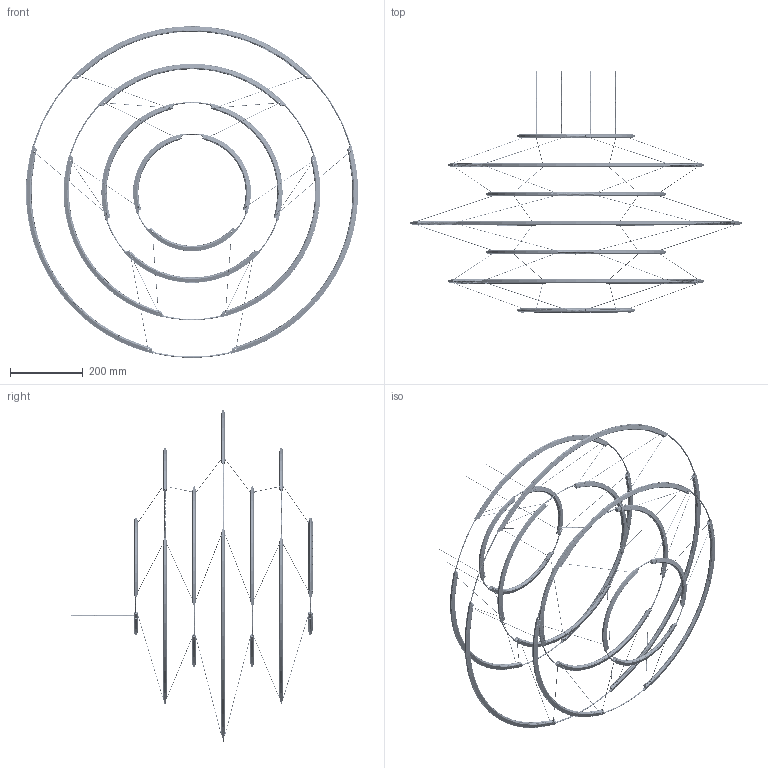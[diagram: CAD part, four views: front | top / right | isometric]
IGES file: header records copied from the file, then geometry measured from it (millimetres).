
Start section: SolidWorks IGES file using analytic representation for surfaces
Global section: file name: N:\- Ingeneria\DISEGNI\PRODOTTI\DROP\800DRPLNN511\800DRPLNN521.IGS; native system: SolidWorks 2016; preprocessor: SolidWorks 2016; author: BenedettoLiVolsi; date: 230613.123745; units: millimetre
Bounding box: 912.93 x 664.35 x 911.77 mm (x, y, z)
Surface area: 991928.1 mm2 (no closed solid volume)
Topology: 0 solids, 0 shells, 10514 faces, 100865 edges, 100532 vertices
Faces by surface type: bspline 6002, revolution 4512
